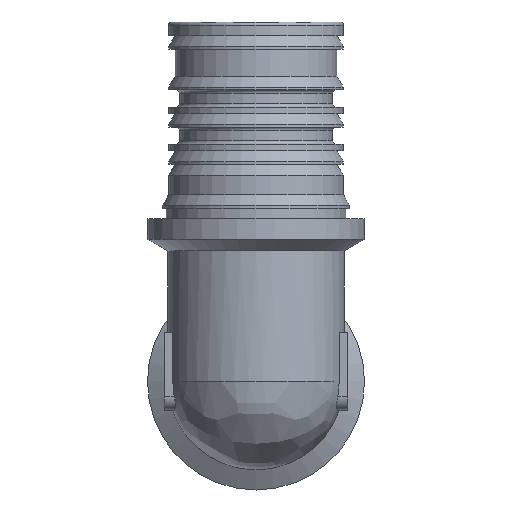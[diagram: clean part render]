
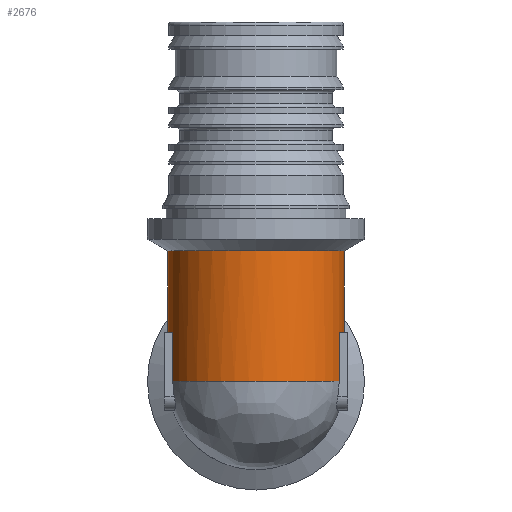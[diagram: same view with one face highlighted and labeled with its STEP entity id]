
A CAD part, front view. The second image highlights one B-rep face of the part: STEP entity #2676.
In plain terms, the highlighted cylindrical face has radius 13 mm (diameter 26 mm), a full revolution.
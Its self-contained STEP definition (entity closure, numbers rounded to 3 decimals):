
#79=ELLIPSE('',#2963,18.385,13.);
#231=LINE('',#4815,#405);
#236=LINE('',#4838,#410);
#249=LINE('',#4878,#423);
#251=LINE('',#4881,#425);
#253=LINE('',#4902,#427);
#405=VECTOR('',#3794,10.);
#410=VECTOR('',#3801,10.);
#423=VECTOR('',#3838,10.);
#425=VECTOR('',#3842,10.);
#427=VECTOR('',#3852,13.);
#461=CYLINDRICAL_SURFACE('',#3023,13.);
#628=FACE_OUTER_BOUND('',#795,.T.);
#795=EDGE_LOOP('',(#2448,#2449,#2450,#2451,#2452,#2453,#2454,#2455,#2456,
#2457,#2458,#2459,#2460,#2461,#2462,#2463));
#883=CIRCLE('',#2820,13.);
#884=CIRCLE('',#2821,13.);
#885=CIRCLE('',#2822,13.);
#986=CIRCLE('',#3010,13.);
#987=CIRCLE('',#3012,13.);
#988=CIRCLE('',#3013,13.);
#989=CIRCLE('',#3015,13.);
#990=CIRCLE('',#3017,13.);
#991=CIRCLE('',#3022,13.);
#1074=VERTEX_POINT('',#4079);
#1075=VERTEX_POINT('',#4081);
#1076=VERTEX_POINT('',#4083);
#1168=VERTEX_POINT('',#4399);
#1169=VERTEX_POINT('',#4401);
#1258=VERTEX_POINT('',#4808);
#1260=VERTEX_POINT('',#4814);
#1264=VERTEX_POINT('',#4835);
#1265=VERTEX_POINT('',#4837);
#1268=VERTEX_POINT('',#4852);
#1270=VERTEX_POINT('',#4858);
#1272=VERTEX_POINT('',#4862);
#1273=VERTEX_POINT('',#4866);
#1276=VERTEX_POINT('',#4874);
#1384=EDGE_CURVE('',#1075,#1074,#883,.T.);
#1385=EDGE_CURVE('',#1076,#1075,#884,.T.);
#1386=EDGE_CURVE('',#1074,#1076,#885,.T.);
#1510=EDGE_CURVE('',#1168,#1169,#79,.T.);
#1642=EDGE_CURVE('',#1260,#1258,#231,.T.);
#1649=EDGE_CURVE('',#1265,#1264,#236,.T.);
#1655=EDGE_CURVE('',#1268,#1260,#986,.T.);
#1658=EDGE_CURVE('',#1264,#1270,#987,.T.);
#1661=EDGE_CURVE('',#1270,#1272,#988,.T.);
#1662=EDGE_CURVE('',#1273,#1169,#989,.T.);
#1667=EDGE_CURVE('',#1168,#1276,#990,.T.);
#1668=EDGE_CURVE('',#1276,#1268,#249,.T.);
#1670=EDGE_CURVE('',#1272,#1273,#251,.T.);
#1672=EDGE_CURVE('',#1258,#1265,#991,.T.);
#1673=EDGE_CURVE('',#1076,#1270,#253,.T.);
#2448=ORIENTED_EDGE('',*,*,#1384,.T.);
#2449=ORIENTED_EDGE('',*,*,#1386,.T.);
#2450=ORIENTED_EDGE('',*,*,#1673,.T.);
#2451=ORIENTED_EDGE('',*,*,#1661,.T.);
#2452=ORIENTED_EDGE('',*,*,#1670,.T.);
#2453=ORIENTED_EDGE('',*,*,#1662,.T.);
#2454=ORIENTED_EDGE('',*,*,#1510,.F.);
#2455=ORIENTED_EDGE('',*,*,#1667,.T.);
#2456=ORIENTED_EDGE('',*,*,#1668,.T.);
#2457=ORIENTED_EDGE('',*,*,#1655,.T.);
#2458=ORIENTED_EDGE('',*,*,#1642,.T.);
#2459=ORIENTED_EDGE('',*,*,#1672,.T.);
#2460=ORIENTED_EDGE('',*,*,#1649,.T.);
#2461=ORIENTED_EDGE('',*,*,#1658,.T.);
#2462=ORIENTED_EDGE('',*,*,#1673,.F.);
#2463=ORIENTED_EDGE('',*,*,#1385,.T.);
#2676=ADVANCED_FACE('',(#628),#461,.T.);
#2820=AXIS2_PLACEMENT_3D('',#4082,#3291,#3292);
#2821=AXIS2_PLACEMENT_3D('',#4084,#3293,#3294);
#2822=AXIS2_PLACEMENT_3D('',#4085,#3295,#3296);
#2963=AXIS2_PLACEMENT_3D('',#4402,#3605,#3606);
#3010=AXIS2_PLACEMENT_3D('',#4853,#3812,#3813);
#3012=AXIS2_PLACEMENT_3D('',#4859,#3818,#3819);
#3013=AXIS2_PLACEMENT_3D('',#4864,#3822,#3823);
#3015=AXIS2_PLACEMENT_3D('',#4867,#3826,#3827);
#3017=AXIS2_PLACEMENT_3D('',#4876,#3834,#3835);
#3022=AXIS2_PLACEMENT_3D('',#4900,#3848,#3849);
#3023=AXIS2_PLACEMENT_3D('',#4901,#3850,#3851);
#3291=DIRECTION('center_axis',(0.,0.,-1.));
#3292=DIRECTION('ref_axis',(-1.,0.,0.));
#3293=DIRECTION('center_axis',(0.,0.,-1.));
#3294=DIRECTION('ref_axis',(-1.,0.,0.));
#3295=DIRECTION('center_axis',(0.,0.,-1.));
#3296=DIRECTION('ref_axis',(-1.,0.,0.));
#3605=DIRECTION('center_axis',(0.,0.707,-0.707));
#3606=DIRECTION('ref_axis',(0.,-0.707,-0.707));
#3794=DIRECTION('',(0.,0.,-1.));
#3801=DIRECTION('',(0.,0.,1.));
#3812=DIRECTION('center_axis',(0.,0.,1.));
#3813=DIRECTION('ref_axis',(-1.,0.,0.));
#3818=DIRECTION('center_axis',(0.,0.,1.));
#3819=DIRECTION('ref_axis',(-1.,0.,0.));
#3822=DIRECTION('center_axis',(0.,0.,1.));
#3823=DIRECTION('ref_axis',(-1.,0.,0.));
#3826=DIRECTION('center_axis',(0.,0.,1.));
#3827=DIRECTION('ref_axis',(-1.,0.,0.));
#3834=DIRECTION('center_axis',(0.,0.,1.));
#3835=DIRECTION('ref_axis',(-1.,0.,0.));
#3838=DIRECTION('',(0.,0.,1.));
#3842=DIRECTION('',(0.,0.,-1.));
#3848=DIRECTION('center_axis',(0.,0.,1.));
#3849=DIRECTION('ref_axis',(-1.,0.,0.));
#3850=DIRECTION('center_axis',(0.,0.,1.));
#3851=DIRECTION('ref_axis',(-1.,0.,0.));
#3852=DIRECTION('',(0.,0.,-1.));
#4079=CARTESIAN_POINT('',(0.,-40.,19.268));
#4081=CARTESIAN_POINT('',(0.,-66.,19.268));
#4082=CARTESIAN_POINT('Origin',(0.,-53.,19.268));
#4083=CARTESIAN_POINT('',(13.,-53.,19.268));
#4084=CARTESIAN_POINT('Origin',(0.,-53.,19.268));
#4085=CARTESIAN_POINT('Origin',(0.,-53.,19.268));
#4399=CARTESIAN_POINT('',(-12.586,-49.745,3.255));
#4401=CARTESIAN_POINT('',(12.586,-49.745,3.255));
#4402=CARTESIAN_POINT('Origin',(0.,-53.,0.));
#4808=CARTESIAN_POINT('',(-12.255,-57.338,0.));
#4814=CARTESIAN_POINT('',(-12.255,-57.338,7.255));
#4815=CARTESIAN_POINT('',(-12.255,-57.338,0.));
#4835=CARTESIAN_POINT('',(12.255,-57.338,7.255));
#4837=CARTESIAN_POINT('',(12.255,-57.338,0.));
#4838=CARTESIAN_POINT('',(12.255,-57.338,0.));
#4852=CARTESIAN_POINT('',(-12.61,-49.838,7.255));
#4853=CARTESIAN_POINT('Origin',(0.,-53.,7.255));
#4858=CARTESIAN_POINT('',(13.,-53.,7.255));
#4859=CARTESIAN_POINT('Origin',(0.,-53.,7.255));
#4862=CARTESIAN_POINT('',(12.61,-49.838,7.255));
#4864=CARTESIAN_POINT('Origin',(0.,-53.,7.255));
#4866=CARTESIAN_POINT('',(12.61,-49.838,3.255));
#4867=CARTESIAN_POINT('Origin',(0.,-53.,3.255));
#4874=CARTESIAN_POINT('',(-12.61,-49.838,3.255));
#4876=CARTESIAN_POINT('Origin',(0.,-53.,3.255));
#4878=CARTESIAN_POINT('',(-12.61,-49.838,0.));
#4881=CARTESIAN_POINT('',(12.61,-49.838,0.));
#4900=CARTESIAN_POINT('Origin',(0.,-53.,0.));
#4901=CARTESIAN_POINT('Origin',(0.,-53.,0.));
#4902=CARTESIAN_POINT('',(13.,-53.,0.));
